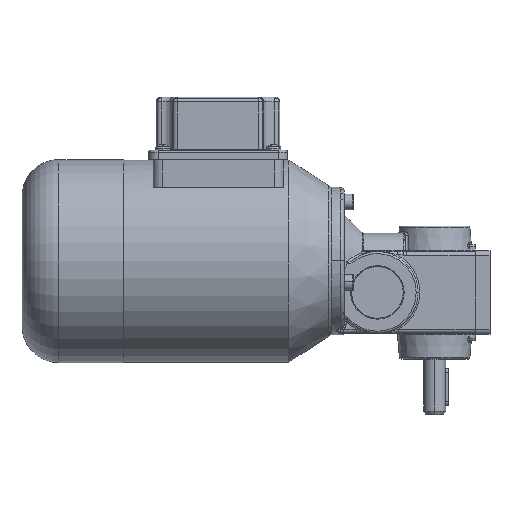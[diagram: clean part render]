
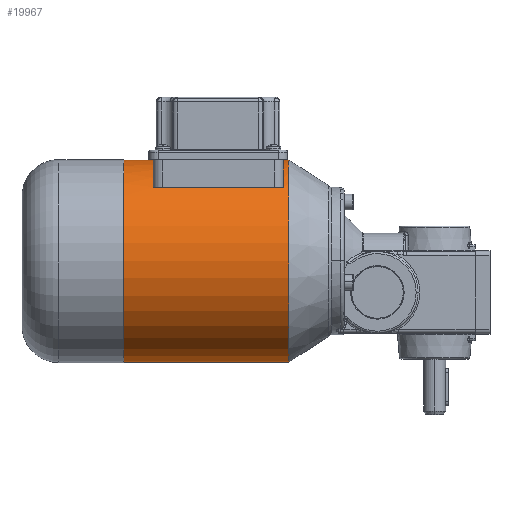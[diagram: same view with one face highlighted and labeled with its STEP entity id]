
A CAD part, top view. The second image highlights one B-rep face of the part: STEP entity #19967.
In plain terms, the highlighted cylindrical face has radius 54.75 mm (diameter 109.5 mm), a partial arc.
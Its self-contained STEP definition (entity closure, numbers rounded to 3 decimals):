
#73 = DIRECTION ( 'NONE',  ( 1., 0., 0. ) ) ;
#129 = CYLINDRICAL_SURFACE ( 'NONE', #14874, 54.75 ) ;
#808 = DIRECTION ( 'NONE',  ( -1., 0., 0. ) ) ;
#885 = CIRCLE ( 'NONE', #24992, 54.75 ) ;
#1724 = CARTESIAN_POINT ( 'NONE',  ( 141.5, 0., -54.75 ) ) ;
#1984 = EDGE_CURVE ( 'NONE', #18619, #5408, #2034, .T. ) ;
#2034 = CIRCLE ( 'NONE', #8406, 54.75 ) ;
#2039 = DIRECTION ( 'NONE',  ( -1., 0., 0. ) ) ;
#3131 = VERTEX_POINT ( 'NONE', #23641 ) ;
#4154 = CARTESIAN_POINT ( 'NONE',  ( 71., 0., -54.75 ) ) ;
#4398 = ORIENTED_EDGE ( 'NONE', *, *, #8092, .T. ) ;
#4579 = DIRECTION ( 'NONE',  ( -1., 0., 0. ) ) ;
#4922 = CARTESIAN_POINT ( 'NONE',  ( 55., 0., -54.75 ) ) ;
#5282 = CIRCLE ( 'NONE', #16123, 54.75 ) ;
#5408 = VERTEX_POINT ( 'NONE', #4154 ) ;
#5493 = EDGE_CURVE ( 'NONE', #5408, #14338, #28284, .T. ) ;
#5727 = CARTESIAN_POINT ( 'NONE',  ( 27.393, 37.384, -40. ) ) ;
#5891 = LINE ( 'NONE', #29428, #14114 ) ;
#7004 = EDGE_CURVE ( 'NONE', #3131, #26541, #885, .T. ) ;
#8092 = EDGE_CURVE ( 'NONE', #26541, #10022, #5891, .T. ) ;
#8406 = AXIS2_PLACEMENT_3D ( 'NONE', #21254, #2039, #27875 ) ;
#8651 = EDGE_CURVE ( 'NONE', #8658, #14338, #5282, .T. ) ;
#8658 = VERTEX_POINT ( 'NONE', #27664 ) ;
#9075 = DIRECTION ( 'NONE',  ( -1., 0., 0. ) ) ;
#9313 = CARTESIAN_POINT ( 'NONE',  ( 141.5, 0., 0. ) ) ;
#9540 = ORIENTED_EDGE ( 'NONE', *, *, #7004, .T. ) ;
#9969 = DIRECTION ( 'NONE',  ( -1., 0., 0. ) ) ;
#10022 = VERTEX_POINT ( 'NONE', #1724 ) ;
#10275 = VECTOR ( 'NONE', #13675, 1000. ) ;
#10318 = CIRCLE ( 'NONE', #16259, 54.75 ) ;
#11825 = DIRECTION ( 'NONE',  ( 0., 0., 1. ) ) ;
#13002 = ORIENTED_EDGE ( 'NONE', *, *, #20655, .F. ) ;
#13675 = DIRECTION ( 'NONE',  ( -1., 0., 0. ) ) ;
#14114 = VECTOR ( 'NONE', #808, 1000. ) ;
#14261 = CARTESIAN_POINT ( 'NONE',  ( 144.5, 0., -54.75 ) ) ;
#14338 = VERTEX_POINT ( 'NONE', #4922 ) ;
#14874 = AXIS2_PLACEMENT_3D ( 'NONE', #21671, #9969, #19378 ) ;
#16123 = AXIS2_PLACEMENT_3D ( 'NONE', #29973, #4579, #25214 ) ;
#16138 = EDGE_CURVE ( 'NONE', #10022, #21299, #10318, .T. ) ;
#16172 = CARTESIAN_POINT ( 'NONE',  ( 144.5, 0., 0. ) ) ;
#16259 = AXIS2_PLACEMENT_3D ( 'NONE', #9313, #73, #16424 ) ;
#16424 = DIRECTION ( 'NONE',  ( 0., 0., -1. ) ) ;
#18327 = LINE ( 'NONE', #27685, #10275 ) ;
#18619 = VERTEX_POINT ( 'NONE', #21851 ) ;
#19308 = DIRECTION ( 'NONE',  ( 1., 0., 0. ) ) ;
#19378 = DIRECTION ( 'NONE',  ( 0., 0., 1. ) ) ;
#19967 = ADVANCED_FACE ( 'NONE', ( #26444 ), #129, .T. ) ;
#20134 = ORIENTED_EDGE ( 'NONE', *, *, #1984, .T. ) ;
#20639 = VECTOR ( 'NONE', #19308, 1000. ) ;
#20655 = EDGE_CURVE ( 'NONE', #3131, #8658, #18327, .T. ) ;
#21254 = CARTESIAN_POINT ( 'NONE',  ( 71., 0., 0. ) ) ;
#21299 = VERTEX_POINT ( 'NONE', #30233 ) ;
#21671 = CARTESIAN_POINT ( 'NONE',  ( 0., 0., 0. ) ) ;
#21851 = CARTESIAN_POINT ( 'NONE',  ( 71., 37.384, -40. ) ) ;
#22423 = EDGE_CURVE ( 'NONE', #18619, #21299, #29117, .T. ) ;
#22966 = EDGE_LOOP ( 'NONE', ( #9540, #4398, #28466, #25800, #20134, #28634, #29367, #13002 ) ) ;
#23641 = CARTESIAN_POINT ( 'NONE',  ( 144.5, 0., 54.75 ) ) ;
#24992 = AXIS2_PLACEMENT_3D ( 'NONE', #16172, #9075, #11825 ) ;
#25214 = DIRECTION ( 'NONE',  ( 0., 0., 1. ) ) ;
#25800 = ORIENTED_EDGE ( 'NONE', *, *, #22423, .F. ) ;
#25996 = CARTESIAN_POINT ( 'NONE',  ( 0., 0., -54.75 ) ) ;
#26444 = FACE_OUTER_BOUND ( 'NONE', #22966, .T. ) ;
#26541 = VERTEX_POINT ( 'NONE', #14261 ) ;
#27664 = CARTESIAN_POINT ( 'NONE',  ( 55., 0., 54.75 ) ) ;
#27685 = CARTESIAN_POINT ( 'NONE',  ( 0., 0., 54.75 ) ) ;
#27875 = DIRECTION ( 'NONE',  ( 0., -1., 0. ) ) ;
#27991 = DIRECTION ( 'NONE',  ( -1., 0., 0. ) ) ;
#28284 = LINE ( 'NONE', #25996, #28331 ) ;
#28331 = VECTOR ( 'NONE', #27991, 1000. ) ;
#28466 = ORIENTED_EDGE ( 'NONE', *, *, #16138, .T. ) ;
#28634 = ORIENTED_EDGE ( 'NONE', *, *, #5493, .T. ) ;
#29117 = LINE ( 'NONE', #5727, #20639 ) ;
#29367 = ORIENTED_EDGE ( 'NONE', *, *, #8651, .F. ) ;
#29428 = CARTESIAN_POINT ( 'NONE',  ( 0., 0., -54.75 ) ) ;
#29973 = CARTESIAN_POINT ( 'NONE',  ( 55., 0., 0. ) ) ;
#30233 = CARTESIAN_POINT ( 'NONE',  ( 141.5, 37.384, -40. ) ) ;
